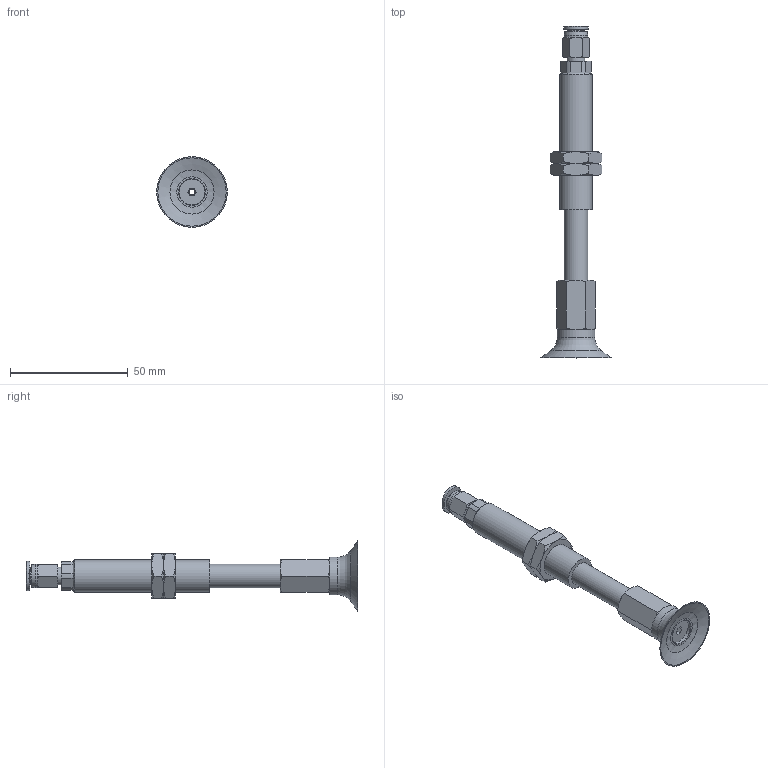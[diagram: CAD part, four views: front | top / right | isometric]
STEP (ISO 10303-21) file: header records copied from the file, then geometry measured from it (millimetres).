
FILE_DESCRIPTION(('STEP AP203'),'1');
FILE_NAME('-O.stp','2025-08-27T06:04:26',(' '),(' '),'Spatial InterOp 3D',' ',' ');
FILE_SCHEMA(('CONFIG_CONTROL_DESIGN'));
Length unit declared in the file: millimetre
Products named in the file (8): BNABPFTS-30-30-※-O; ADAPTER; NAPFTS-30-30-MBODY; TN-PF-30-M6-NAPF; Nut-30-30-s; NAPFTS-30-30-FBODY; BPFG-30-※; PC-C_06-M5
Assembly tree (8 placements, depth 2):
  BNABPFTS-30-30-※-O
    ADAPTER
    NAPFTS-30-30-MBODY
    TN-PF-30-M6-NAPF
    Nut-30-30-s  x2
    NAPFTS-30-30-FBODY
    BPFG-30-※
    PC-C_06-M5
Bounding box: 30 x 140.98 x 30 mm (x, y, z)
Volume: 19015.4 mm3; surface area: 15701.1 mm2
Topology: 7 solids, 10 shells, 180 faces, 374 edges, 225 vertices
Faces by surface type: plane 73, cone 62, cylinder 30, torus 7, bspline 5, revolution 3
Full cylindrical faces by diameter (mm): 3 x3, 4 x2, 4.134 x1, 4.917 x1, 5 x1, 6 x2, 7 x1, 7.4 x1, 8.2 x1, 10 x3, 11 x2, 12.917 x2, 14 x1, 16 x1
Entity records: 4793 total; most frequent: CARTESIAN_POINT 1348, DIRECTION 639, ORIENTED_EDGE 552, AXIS2_PLACEMENT_3D 279, EDGE_CURVE 278, EDGE_LOOP 226, VERTEX_POINT 192, FACE_OUTER_BOUND 126
